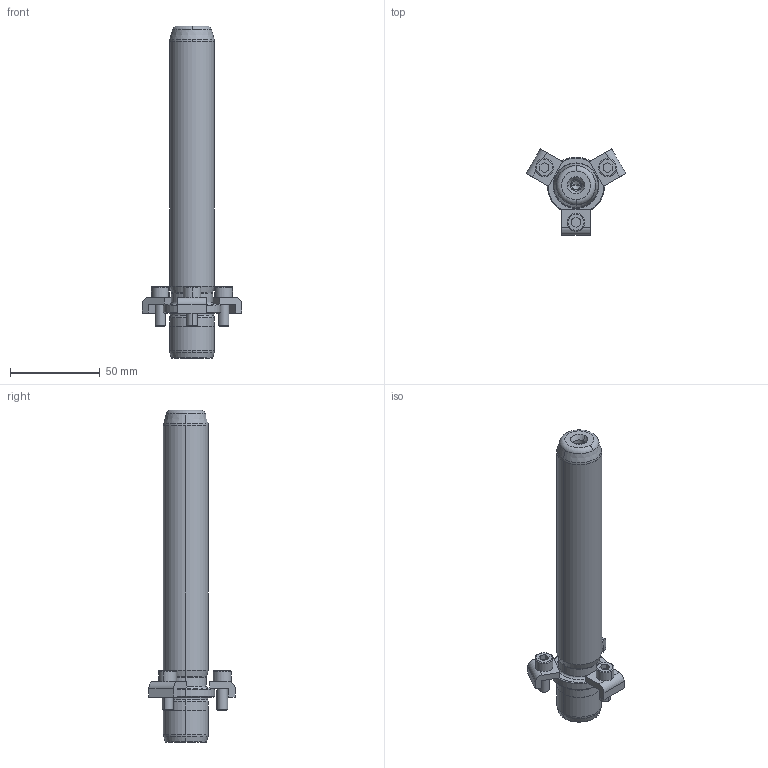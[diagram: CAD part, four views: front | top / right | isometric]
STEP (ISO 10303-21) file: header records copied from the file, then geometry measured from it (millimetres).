
FILE_DESCRIPTION((''),'2;1');
FILE_NAME('P21_025_160.stp','2008-12-23T09:50:50',(''),(''),'Mechanical Desktop 2009','Mechanical Desktop 2009',', , ');
FILE_SCHEMA(('CONFIG_CONTROL_DESIGN'));
Length unit declared in the file: millimetre
Products named in the file (2): Product; blmdl1
Assembly tree (1 placements, depth 2):
  Product
    blmdl1
Bounding box: 55.58 x 48.13 x 185 mm (x, y, z)
Volume: 95209.2 mm3; surface area: 21162.3 mm2
Topology: 7 solids, 7 shells, 163 faces, 417 edges, 269 vertices
Faces by surface type: plane 59, cylinder 44, cone 32, torus 14, bspline 14
Entity records: 5679 total; most frequent: CARTESIAN_POINT 1511, DIRECTION 914, ORIENTED_EDGE 826, EDGE_CURVE 413, AXIS2_PLACEMENT_3D 362, VERTEX_POINT 269, CIRCLE 211, VECTOR 190
